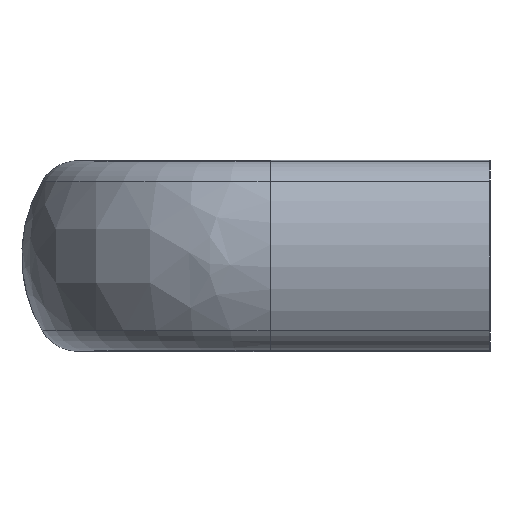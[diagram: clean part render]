
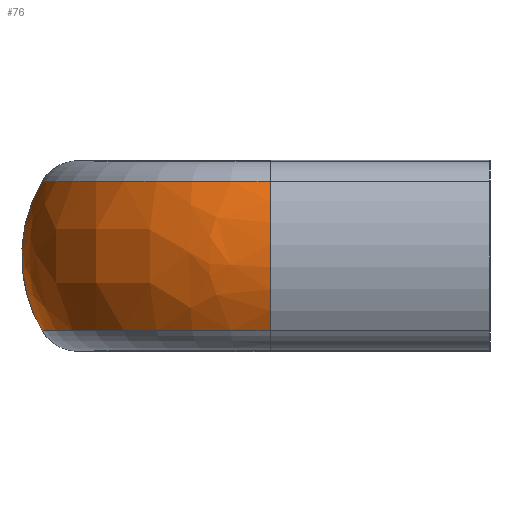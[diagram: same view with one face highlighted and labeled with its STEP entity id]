
A CAD part, left-side view. The second image highlights one B-rep face of the part: STEP entity #76.
In plain terms, the highlighted free-form (B-spline) face has degree [3, 3] with [4, 4] control points.
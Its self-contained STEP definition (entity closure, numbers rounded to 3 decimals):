
#76 = ADVANCED_FACE( '', ( #131 ), #132, .T. );
#131 = FACE_OUTER_BOUND( '', #243, .T. );
#132 = ( BOUNDED_SURFACE(  )B_SPLINE_SURFACE( 3, 3, ( ( #246, #247, #248, #249 ), ( #250, #251, #252, #253 ), ( #254, #255, #256, #257 ), ( #258, #259, #260, #261 ) ), .UNSPECIFIED., .F., .F., .F. )B_SPLINE_SURFACE_WITH_KNOTS( ( 4, 4 ), ( 4, 4 ), ( 1.571, 3.142 ), ( -0.533, 0.533 ), .UNSPECIFIED. )GEOMETRIC_REPRESENTATION_ITEM(  )RATIONAL_B_SPLINE_SURFACE( ( ( 1., 0.805, 0.805, 1. ), ( 0.907, 0.73, 0.73, 0.907 ), ( 0.907, 0.73, 0.73, 0.907 ), ( 1., 0.805, 0.805, 1. ) ) )REPRESENTATION_ITEM( '' )SURFACE(  ) );
#243 = EDGE_LOOP( '', ( #404, #405, #406, #407 ) );
#246 = CARTESIAN_POINT( '', ( -39., 46.852, 7.826 ) );
#247 = CARTESIAN_POINT( '', ( -52.972, 46.852, 7.826 ) );
#248 = CARTESIAN_POINT( '', ( -62.852, 36.972, 7.826 ) );
#249 = CARTESIAN_POINT( '', ( -62.852, 23., 7.826 ) );
#250 = CARTESIAN_POINT( '', ( -39., 49.775, 2.875 ) );
#251 = CARTESIAN_POINT( '', ( -54.685, 49.775, 2.875 ) );
#252 = CARTESIAN_POINT( '', ( -65.775, 38.685, 2.875 ) );
#253 = CARTESIAN_POINT( '', ( -65.775, 23., 2.875 ) );
#254 = CARTESIAN_POINT( '', ( -39., 49.775, -2.875 ) );
#255 = CARTESIAN_POINT( '', ( -54.685, 49.775, -2.875 ) );
#256 = CARTESIAN_POINT( '', ( -65.775, 38.685, -2.875 ) );
#257 = CARTESIAN_POINT( '', ( -65.775, 23., -2.875 ) );
#258 = CARTESIAN_POINT( '', ( -39., 46.852, -7.826 ) );
#259 = CARTESIAN_POINT( '', ( -52.972, 46.852, -7.826 ) );
#260 = CARTESIAN_POINT( '', ( -62.852, 36.972, -7.826 ) );
#261 = CARTESIAN_POINT( '', ( -62.852, 23., -7.826 ) );
#404 = ORIENTED_EDGE( '', *, *, #799, .T. );
#405 = ORIENTED_EDGE( '', *, *, #800, .F. );
#406 = ORIENTED_EDGE( '', *, *, #801, .F. );
#407 = ORIENTED_EDGE( '', *, *, #802, .T. );
#799 = EDGE_CURVE( '', #921, #925, #927, .T. );
#800 = EDGE_CURVE( '', #928, #925, #929, .T. );
#801 = EDGE_CURVE( '', #930, #928, #931, .T. );
#802 = EDGE_CURVE( '', #930, #921, #932, .T. );
#921 = VERTEX_POINT( '', #1118 );
#925 = VERTEX_POINT( '', #1127 );
#927 = CIRCLE( '', #1129, 23.852 );
#928 = VERTEX_POINT( '', #1130 );
#929 = CIRCLE( '', #1131, 15.391 );
#930 = VERTEX_POINT( '', #1132 );
#931 = CIRCLE( '', #1133, 23.852 );
#932 = B_SPLINE_CURVE_WITH_KNOTS( '', 3, ( #1134, #1135, #1136, #1137, #1138, #1139, #1140, #1141, #1142, #1143 ), .UNSPECIFIED., .F., .F., ( 4, 2, 2, 2, 4 ), ( 0., 0.25, 0.5, 0.75, 1. ), .UNSPECIFIED. );
#1118 = CARTESIAN_POINT( '', ( -39., 46.852, -7.833 ) );
#1127 = CARTESIAN_POINT( '', ( -62.852, 23., -7.826 ) );
#1129 = AXIS2_PLACEMENT_3D( '', #1398, #1399, #1400 );
#1130 = CARTESIAN_POINT( '', ( -62.852, 23., 7.826 ) );
#1131 = AXIS2_PLACEMENT_3D( '', #1401, #1402, #1403 );
#1132 = CARTESIAN_POINT( '', ( -39., 46.851, 7.834 ) );
#1133 = AXIS2_PLACEMENT_3D( '', #1404, #1405, #1406 );
#1134 = CARTESIAN_POINT( '', ( -39., 46.852, 7.826 ) );
#1135 = CARTESIAN_POINT( '', ( -39., 47.548, 6.648 ) );
#1136 = CARTESIAN_POINT( '', ( -39., 48.085, 5.376 ) );
#1137 = CARTESIAN_POINT( '', ( -39., 48.806, 2.736 ) );
#1138 = CARTESIAN_POINT( '', ( -39., 48.99, 1.368 ) );
#1139 = CARTESIAN_POINT( '', ( -39., 48.99, -1.368 ) );
#1140 = CARTESIAN_POINT( '', ( -39., 48.806, -2.736 ) );
#1141 = CARTESIAN_POINT( '', ( -39., 48.085, -5.376 ) );
#1142 = CARTESIAN_POINT( '', ( -39., 47.548, -6.648 ) );
#1143 = CARTESIAN_POINT( '', ( -39., 46.852, -7.826 ) );
#1398 = CARTESIAN_POINT( '', ( -39., 23., -7.826 ) );
#1399 = DIRECTION( '', ( 0., 0., 1. ) );
#1400 = DIRECTION( '', ( 1., 0., 0. ) );
#1401 = CARTESIAN_POINT( '', ( -49.599, 23., 0. ) );
#1402 = DIRECTION( '', ( 0., -1., 0. ) );
#1403 = DIRECTION( '', ( 0., 0., 1. ) );
#1404 = CARTESIAN_POINT( '', ( -39., 23., 7.826 ) );
#1405 = DIRECTION( '', ( 0., 0., 1. ) );
#1406 = DIRECTION( '', ( 1., 0., 0. ) );
